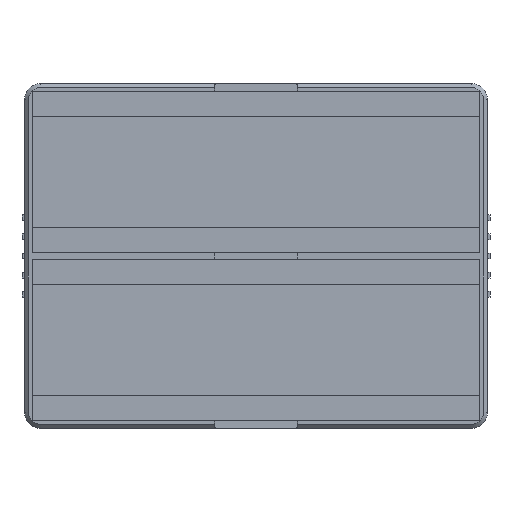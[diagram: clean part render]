
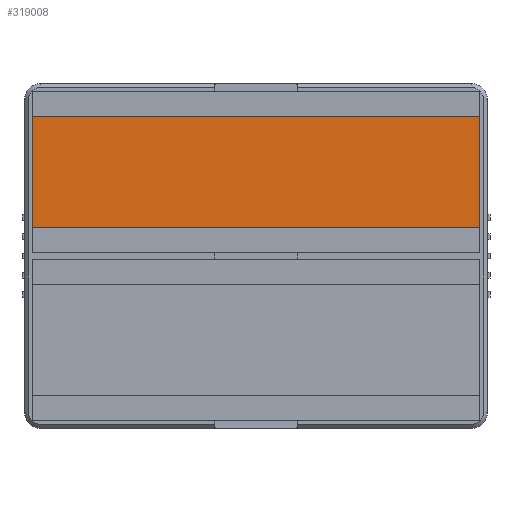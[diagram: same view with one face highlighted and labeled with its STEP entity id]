
A CAD part, top view. The second image highlights one B-rep face of the part: STEP entity #319008.
In plain terms, the highlighted planar face has unit normal (0, 0, 1).
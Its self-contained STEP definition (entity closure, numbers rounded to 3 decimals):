
#112486 = PLANE('',#112487);
#112487 = AXIS2_PLACEMENT_3D('',#112488,#112489,#112490);
#112488 = CARTESIAN_POINT('',(-70.,1.,2.));
#112489 = DIRECTION('',(1.,0.,-0.));
#112490 = DIRECTION('',(0.,0.,1.));
#305820 = PLANE('',#305821);
#305821 = AXIS2_PLACEMENT_3D('',#305822,#305823,#305824);
#305822 = CARTESIAN_POINT('',(70.,1.,2.));
#305823 = DIRECTION('',(1.,0.,-0.));
#305824 = DIRECTION('',(0.,0.,1.));
#306112 = VERTEX_POINT('',#306113);
#306113 = CARTESIAN_POINT('',(-70.,9.,2.));
#306126 = PLANE('',#306127);
#306127 = AXIS2_PLACEMENT_3D('',#306128,#306129,#306130);
#306128 = CARTESIAN_POINT('',(-70.1,9.,1.2));
#306129 = DIRECTION('',(-0.,1.,0.));
#306130 = DIRECTION('',(0.,0.,1.));
#306137 = EDGE_CURVE('',#306112,#306138,#306140,.T.);
#306138 = VERTEX_POINT('',#306139);
#306139 = CARTESIAN_POINT('',(-70.,43.5,2.));
#306140 = SURFACE_CURVE('',#306141,(#306145,#306152),.PCURVE_S1.);
#306141 = LINE('',#306142,#306143);
#306142 = CARTESIAN_POINT('',(-70.,1.,2.));
#306143 = VECTOR('',#306144,1.);
#306144 = DIRECTION('',(-0.,1.,0.));
#306145 = PCURVE('',#112486,#306146);
#306146 = DEFINITIONAL_REPRESENTATION('',(#306147),#306151);
#306147 = LINE('',#306148,#306149);
#306148 = CARTESIAN_POINT('',(0.,0.));
#306149 = VECTOR('',#306150,1.);
#306150 = DIRECTION('',(0.,-1.));
#306151 = ( GEOMETRIC_REPRESENTATION_CONTEXT(2) 
PARAMETRIC_REPRESENTATION_CONTEXT() REPRESENTATION_CONTEXT('2D SPACE',''
  ) );
#306152 = PCURVE('',#306153,#306158);
#306153 = PLANE('',#306154);
#306154 = AXIS2_PLACEMENT_3D('',#306155,#306156,#306157);
#306155 = CARTESIAN_POINT('',(-70.,1.,2.));
#306156 = DIRECTION('',(0.,0.,1.));
#306157 = DIRECTION('',(1.,0.,-0.));
#306158 = DEFINITIONAL_REPRESENTATION('',(#306159),#306163);
#306159 = LINE('',#306160,#306161);
#306160 = CARTESIAN_POINT('',(0.,0.));
#306161 = VECTOR('',#306162,1.);
#306162 = DIRECTION('',(0.,1.));
#306163 = ( GEOMETRIC_REPRESENTATION_CONTEXT(2) 
PARAMETRIC_REPRESENTATION_CONTEXT() REPRESENTATION_CONTEXT('2D SPACE',''
  ) );
#306180 = PLANE('',#306181);
#306181 = AXIS2_PLACEMENT_3D('',#306182,#306183,#306184);
#306182 = CARTESIAN_POINT('',(-70.1,43.5,1.2));
#306183 = DIRECTION('',(-0.,1.,0.));
#306184 = DIRECTION('',(0.,0.,1.));
#318672 = VERTEX_POINT('',#318673);
#318673 = CARTESIAN_POINT('',(70.,9.,2.));
#318692 = EDGE_CURVE('',#318672,#318693,#318695,.T.);
#318693 = VERTEX_POINT('',#318694);
#318694 = CARTESIAN_POINT('',(70.,43.5,2.));
#318695 = SURFACE_CURVE('',#318696,(#318700,#318707),.PCURVE_S1.);
#318696 = LINE('',#318697,#318698);
#318697 = CARTESIAN_POINT('',(70.,1.,2.));
#318698 = VECTOR('',#318699,1.);
#318699 = DIRECTION('',(-0.,1.,0.));
#318700 = PCURVE('',#305820,#318701);
#318701 = DEFINITIONAL_REPRESENTATION('',(#318702),#318706);
#318702 = LINE('',#318703,#318704);
#318703 = CARTESIAN_POINT('',(0.,0.));
#318704 = VECTOR('',#318705,1.);
#318705 = DIRECTION('',(0.,-1.));
#318706 = ( GEOMETRIC_REPRESENTATION_CONTEXT(2) 
PARAMETRIC_REPRESENTATION_CONTEXT() REPRESENTATION_CONTEXT('2D SPACE',''
  ) );
#318707 = PCURVE('',#306153,#318708);
#318708 = DEFINITIONAL_REPRESENTATION('',(#318709),#318713);
#318709 = LINE('',#318710,#318711);
#318710 = CARTESIAN_POINT('',(140.,0.));
#318711 = VECTOR('',#318712,1.);
#318712 = DIRECTION('',(0.,1.));
#318713 = ( GEOMETRIC_REPRESENTATION_CONTEXT(2) 
PARAMETRIC_REPRESENTATION_CONTEXT() REPRESENTATION_CONTEXT('2D SPACE',''
  ) );
#318988 = EDGE_CURVE('',#318693,#306138,#318989,.T.);
#318989 = SURFACE_CURVE('',#318990,(#318994,#319000),.PCURVE_S1.);
#318990 = LINE('',#318991,#318992);
#318991 = CARTESIAN_POINT('',(-70.05,43.5,2.));
#318992 = VECTOR('',#318993,1.);
#318993 = DIRECTION('',(-1.,-0.,0.));
#318994 = PCURVE('',#306180,#318995);
#318995 = DEFINITIONAL_REPRESENTATION('',(#318996),#318999);
#318996 = B_SPLINE_CURVE_WITH_KNOTS('',1,(#318997,#318998),
  .UNSPECIFIED.,.F.,.F.,(2,2),(-140.05,-0.05),
  .PIECEWISE_BEZIER_KNOTS.);
#318997 = CARTESIAN_POINT('',(0.8,140.1));
#318998 = CARTESIAN_POINT('',(0.8,0.1));
#318999 = ( GEOMETRIC_REPRESENTATION_CONTEXT(2) 
PARAMETRIC_REPRESENTATION_CONTEXT() REPRESENTATION_CONTEXT('2D SPACE',''
  ) );
#319000 = PCURVE('',#306153,#319001);
#319001 = DEFINITIONAL_REPRESENTATION('',(#319002),#319005);
#319002 = B_SPLINE_CURVE_WITH_KNOTS('',1,(#319003,#319004),
  .UNSPECIFIED.,.F.,.F.,(2,2),(-140.05,-0.05),
  .PIECEWISE_BEZIER_KNOTS.);
#319003 = CARTESIAN_POINT('',(140.,42.5));
#319004 = CARTESIAN_POINT('',(0.,42.5));
#319005 = ( GEOMETRIC_REPRESENTATION_CONTEXT(2) 
PARAMETRIC_REPRESENTATION_CONTEXT() REPRESENTATION_CONTEXT('2D SPACE',''
  ) );
#319008 = ADVANCED_FACE('',(#319009),#306153,.T.);
#319009 = FACE_BOUND('',#319010,.T.);
#319010 = EDGE_LOOP('',(#319011,#319012,#319031,#319032));
#319011 = ORIENTED_EDGE('',*,*,#306137,.F.);
#319012 = ORIENTED_EDGE('',*,*,#319013,.F.);
#319013 = EDGE_CURVE('',#318672,#306112,#319014,.T.);
#319014 = SURFACE_CURVE('',#319015,(#319019,#319025),.PCURVE_S1.);
#319015 = LINE('',#319016,#319017);
#319016 = CARTESIAN_POINT('',(-70.05,9.,2.));
#319017 = VECTOR('',#319018,1.);
#319018 = DIRECTION('',(-1.,-0.,0.));
#319019 = PCURVE('',#306153,#319020);
#319020 = DEFINITIONAL_REPRESENTATION('',(#319021),#319024);
#319021 = B_SPLINE_CURVE_WITH_KNOTS('',1,(#319022,#319023),
  .UNSPECIFIED.,.F.,.F.,(2,2),(-140.05,-0.05),
  .PIECEWISE_BEZIER_KNOTS.);
#319022 = CARTESIAN_POINT('',(140.,8.));
#319023 = CARTESIAN_POINT('',(0.,8.));
#319024 = ( GEOMETRIC_REPRESENTATION_CONTEXT(2) 
PARAMETRIC_REPRESENTATION_CONTEXT() REPRESENTATION_CONTEXT('2D SPACE',''
  ) );
#319025 = PCURVE('',#306126,#319026);
#319026 = DEFINITIONAL_REPRESENTATION('',(#319027),#319030);
#319027 = B_SPLINE_CURVE_WITH_KNOTS('',1,(#319028,#319029),
  .UNSPECIFIED.,.F.,.F.,(2,2),(-140.05,-0.05),
  .PIECEWISE_BEZIER_KNOTS.);
#319028 = CARTESIAN_POINT('',(0.8,140.1));
#319029 = CARTESIAN_POINT('',(0.8,0.1));
#319030 = ( GEOMETRIC_REPRESENTATION_CONTEXT(2) 
PARAMETRIC_REPRESENTATION_CONTEXT() REPRESENTATION_CONTEXT('2D SPACE',''
  ) );
#319031 = ORIENTED_EDGE('',*,*,#318692,.T.);
#319032 = ORIENTED_EDGE('',*,*,#318988,.T.);
